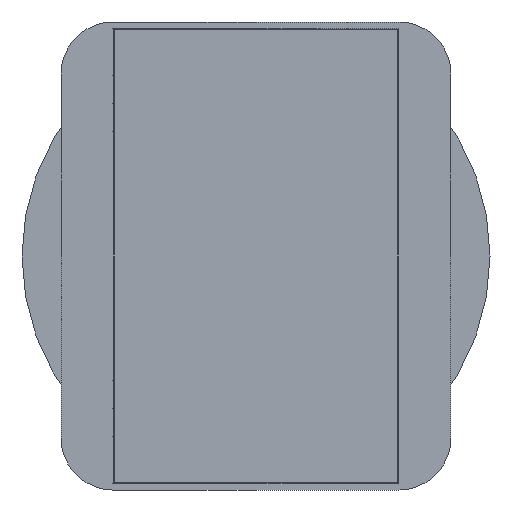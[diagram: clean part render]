
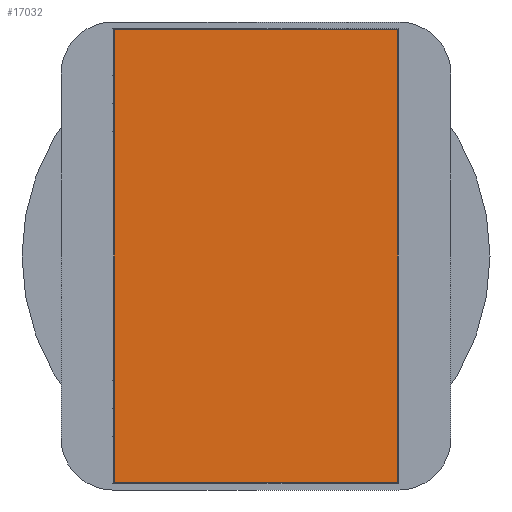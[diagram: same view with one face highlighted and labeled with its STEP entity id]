
A CAD part, front view. The second image highlights one B-rep face of the part: STEP entity #17032.
In plain terms, the highlighted planar face has unit normal (0, -1, 0) as drawn and (0, 0, 1) by its records, which use the part's own axes.
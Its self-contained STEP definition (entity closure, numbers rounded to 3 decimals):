
#1858 = EDGE_CURVE ( 'NONE', #17788, #6635, #11128, .T. ) ;
#2012 = CARTESIAN_POINT ( 'NONE',  ( -10.9, -17.4, 7.5 ) ) ;
#2461 = CARTESIAN_POINT ( 'NONE',  ( -10.9, 17.4, 7.5 ) ) ;
#3136 = DIRECTION ( 'NONE',  ( -1., 0., 0. ) ) ;
#3152 = ORIENTED_EDGE ( 'NONE', *, *, #8971, .T. ) ;
#3703 = DIRECTION ( 'NONE',  ( 0., 0., 1. ) ) ;
#4589 = CARTESIAN_POINT ( 'NONE',  ( 10.9, 17.4, 7.5 ) ) ;
#5602 = CARTESIAN_POINT ( 'NONE',  ( -10.9, -17.4, 7.5 ) ) ;
#6286 = AXIS2_PLACEMENT_3D ( 'NONE', #11430, #3703, #14261 ) ;
#6623 = DIRECTION ( 'NONE',  ( 0., 1., 0. ) ) ;
#6635 = VERTEX_POINT ( 'NONE', #5602 ) ;
#6948 = VECTOR ( 'NONE', #3136, 1000. ) ;
#7111 = VECTOR ( 'NONE', #13203, 1000. ) ;
#7951 = VECTOR ( 'NONE', #13904, 1000. ) ;
#8224 = ORIENTED_EDGE ( 'NONE', *, *, #1858, .T. ) ;
#8631 = LINE ( 'NONE', #15749, #13114 ) ;
#8648 = LINE ( 'NONE', #2012, #7951 ) ;
#8776 = EDGE_LOOP ( 'NONE', ( #9987, #3152, #8224, #16513 ) ) ;
#8817 = CARTESIAN_POINT ( 'NONE',  ( 10.9, 17.4, 7.5 ) ) ;
#8971 = EDGE_CURVE ( 'NONE', #11278, #17788, #14997, .T. ) ;
#9444 = PLANE ( 'NONE',  #6286 ) ;
#9987 = ORIENTED_EDGE ( 'NONE', *, *, #18081, .T. ) ;
#11128 = LINE ( 'NONE', #2461, #7111 ) ;
#11278 = VERTEX_POINT ( 'NONE', #8817 ) ;
#11430 = CARTESIAN_POINT ( 'NONE',  ( 0., 0., 7.5 ) ) ;
#11644 = VERTEX_POINT ( 'NONE', #14485 ) ;
#13035 = CARTESIAN_POINT ( 'NONE',  ( -10.9, 17.4, 7.5 ) ) ;
#13114 = VECTOR ( 'NONE', #6623, 1000. ) ;
#13203 = DIRECTION ( 'NONE',  ( 0., -1., 0. ) ) ;
#13904 = DIRECTION ( 'NONE',  ( 1., 0., 0. ) ) ;
#14261 = DIRECTION ( 'NONE',  ( 1., 0., 0. ) ) ;
#14485 = CARTESIAN_POINT ( 'NONE',  ( 10.9, -17.4, 7.5 ) ) ;
#14997 = LINE ( 'NONE', #4589, #6948 ) ;
#15749 = CARTESIAN_POINT ( 'NONE',  ( 10.9, -17.4, 7.5 ) ) ;
#16513 = ORIENTED_EDGE ( 'NONE', *, *, #17601, .T. ) ;
#17032 = ADVANCED_FACE ( 'NONE', ( #19332 ), #9444, .T. ) ;
#17601 = EDGE_CURVE ( 'NONE', #6635, #11644, #8648, .T. ) ;
#17788 = VERTEX_POINT ( 'NONE', #13035 ) ;
#18081 = EDGE_CURVE ( 'NONE', #11644, #11278, #8631, .T. ) ;
#19332 = FACE_OUTER_BOUND ( 'NONE', #8776, .T. ) ;
